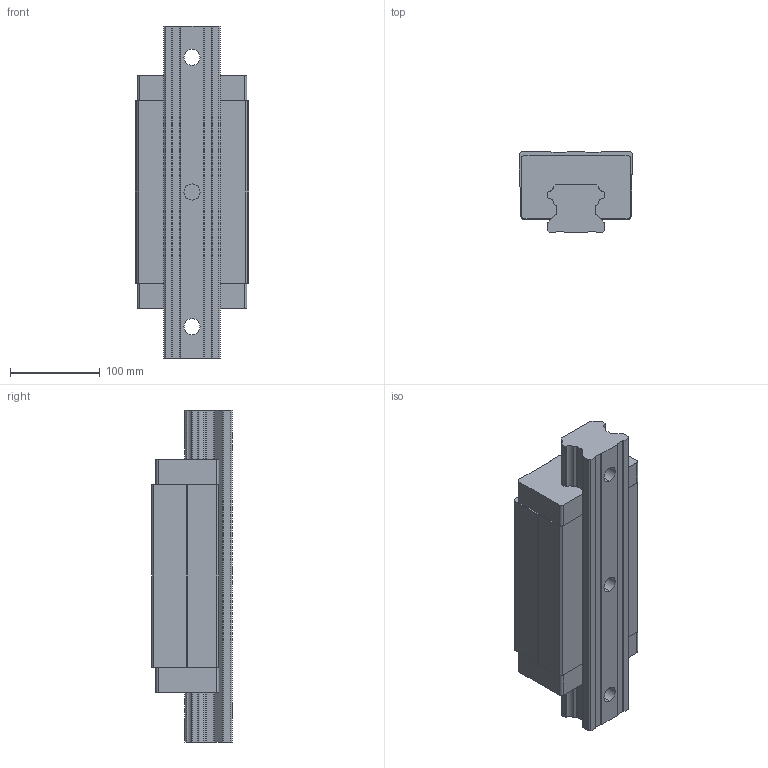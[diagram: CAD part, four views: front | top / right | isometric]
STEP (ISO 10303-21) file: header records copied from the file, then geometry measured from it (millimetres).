
FILE_DESCRIPTION (( 'STEP AP214' ), '1' );
FILE_NAME ('2.1030 Lineaarikelkka HGH65HA.STEP', '2025-09-19T06:30:09', ( '' ), ( '' ), 'SwSTEP 2.0', 'SolidWorks 2025', '' );
FILE_SCHEMA (( 'AUTOMOTIVE_DESIGN' ));
Length unit declared in the file: millimetre
Products named in the file (1): 2.1030 Lineaarikelkka HGH65HA
Bounding box: 126 x 90 x 370 mm (x, y, z)
Volume: 2850207.3 mm3; surface area: 247801.7 mm2
Topology: 2 solids, 2 shells, 141 faces, 390 edges, 260 vertices
Faces by surface type: plane 95, cylinder 46
Entity records: 6091 total; most frequent: CARTESIAN_POINT 792, ORIENTED_EDGE 780, DIRECTION 766, EDGE_CURVE 390, VECTOR 298, LINE 298, VERTEX_POINT 260, AXIS2_PLACEMENT_3D 234
